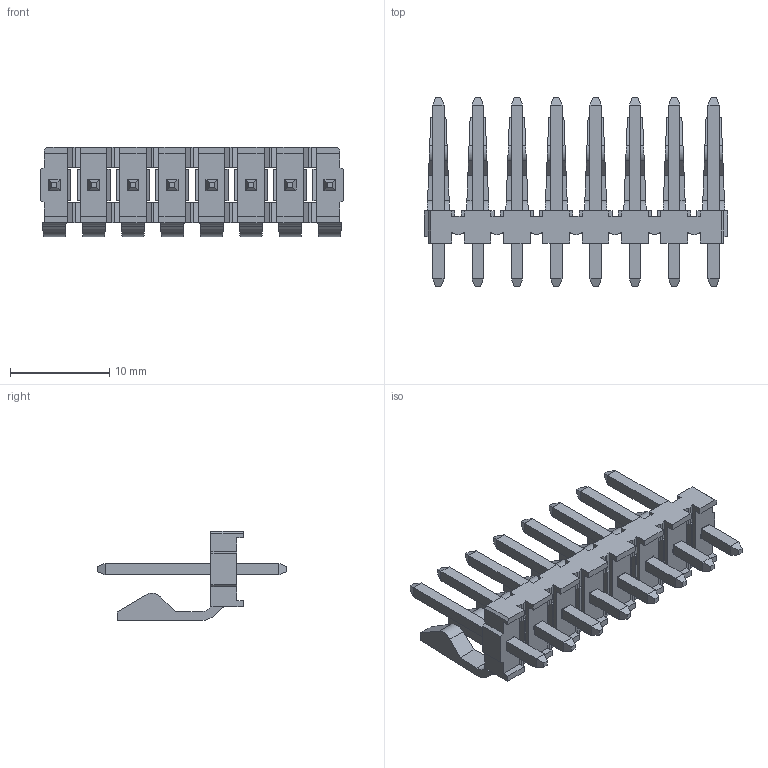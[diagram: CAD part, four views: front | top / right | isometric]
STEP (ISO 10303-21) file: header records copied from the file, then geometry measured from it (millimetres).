
FILE_DESCRIPTION((''),'2;1');
FILE_NAME('026481085','2015-03-10T',('ME'),(''),'PRO/ENGINEER BY PARAMETRIC TECHNOLOGY CORPORATION, 2011490','PRO/ENGINEER BY PARAMETRIC TECHNOLOGY CORPORATION, 2011490','');
FILE_SCHEMA(('CONFIG_CONTROL_DESIGN'));
Length unit declared in the file: inch
Products named in the file (1): 026481085
Bounding box: 30.56 x 19.05 x 9.02 mm (x, y, z)
Volume: 928.5 mm3; surface area: 2254.5 mm2
Topology: 1 solids, 1 shells, 508 faces, 1390 edges, 894 vertices
Faces by surface type: plane 476, cylinder 32
Entity records: 15787 total; most frequent: CARTESIAN_POINT 3029, ORIENTED_EDGE 2748, DIRECTION 2360, EDGE_CURVE 1374, VECTOR 1310, LINE 1310, VERTEX_POINT 878, EDGE_LOOP 532
